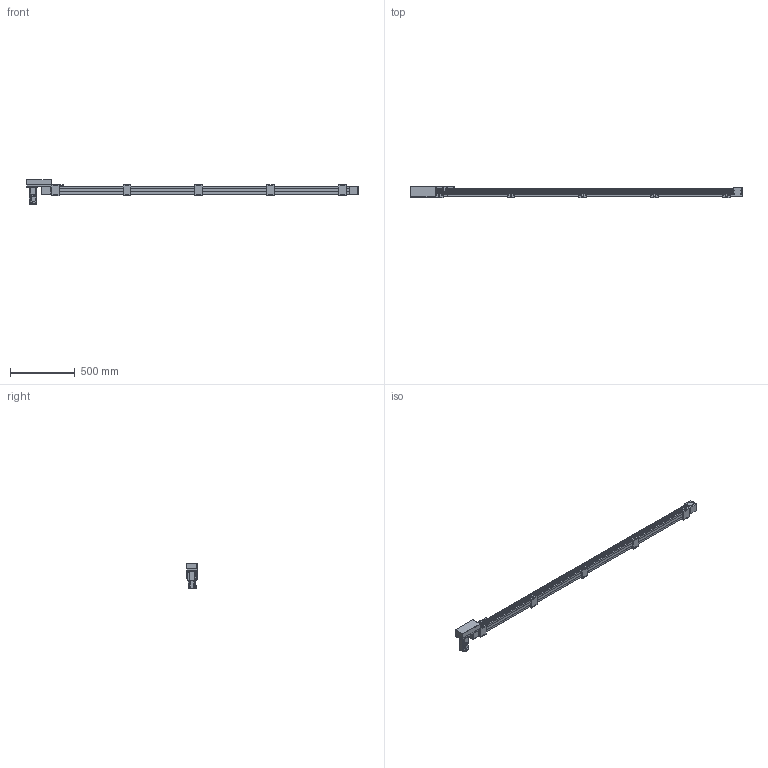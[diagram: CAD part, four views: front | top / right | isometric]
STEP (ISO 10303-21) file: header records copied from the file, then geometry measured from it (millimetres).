
FILE_DESCRIPTION(/* description */ ('STEP AP214'),/* implementation_level */ '2;1');
FILE_NAME(/* name */ 'SK60-P13-S2150-R-T40-C1-N(0)',/* time_stamp */ '2023-04-06T04:28:19+02:00',/* author */ ('License CC BY-ND 4.0'),/* organization */ ('CADENAS'),/* preprocessor_version */ 'ST-DEVELOPER v19.3',/* originating_system */ 'PARTsolutions',/* authorisation */ ' ');
FILE_SCHEMA (('AUTOMOTIVE_DESIGN {1 0 10303 214 3 1 1}'));
Length unit declared in the file: millimetre
Products named in the file (10): SK60-P13-S2150-R-T40-C1-N(0); PSC140-sensor; SK60-S450_seat; SK60-S450-BL-C1_slider; SK60_body3; SK60_body6; SK60-BL_body2; T40-p1; SK60-R_fb; SK60-S2150-R-C1_body
Assembly tree (19 placements, depth 2):
  SK60-P13-S2150-R-T40-C1-N(0)
    PSC140-sensor  x3
    SK60-S450_seat  x5
    SK60-S450-BL-C1_slider
    SK60_body3  x3
    SK60_body6  x2
    SK60-BL_body2  x2
    T40-p1
    SK60-R_fb
    SK60-S2150-R-C1_body
Bounding box: 2570.5 x 90 x 189.7 mm (x, y, z)
Volume: 9554245.1 mm3; surface area: 1140861.7 mm2
Topology: 19 solids, 19 shells, 942 faces, 2342 edges, 1541 vertices
Faces by surface type: plane 596, cylinder 310, cone 34, torus 2
Full cylindrical faces by diameter (mm): 2.8 x3, 3.3 x4, 4 x2, 4.5 x30, 4.6 x3, 4.917 x28, 5 x6, 5.478 x4, 5.5 x31, 6.5 x10, 7 x2, 8 x4, 8.5 x4, 9.988 x4, 10 x20, 14 x1, 47 x3, 50 x2
Entity records: 18679 total; most frequent: DIRECTION 3190, CARTESIAN_POINT 3153, ORIENTED_EDGE 2940, EDGE_CURVE 1470, AXIS2_PLACEMENT_3D 1071, LINE 1048, VECTOR 1048, VERTEX_POINT 1034
